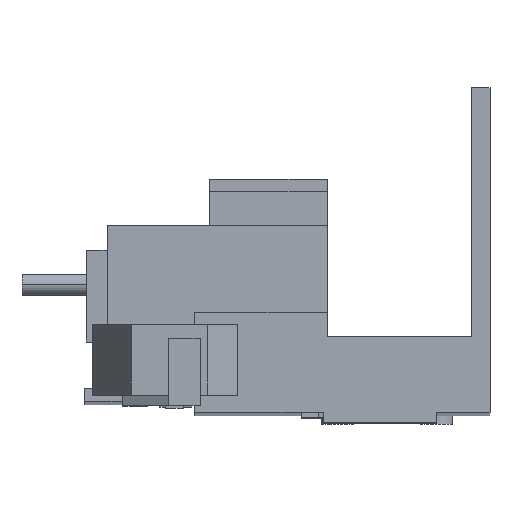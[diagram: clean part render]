
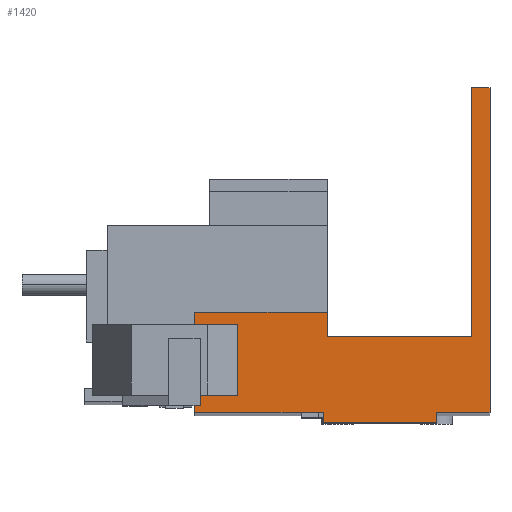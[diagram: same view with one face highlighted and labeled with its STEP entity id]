
A CAD part, front view. The second image highlights one B-rep face of the part: STEP entity #1420.
In plain terms, the highlighted planar face has unit normal (0, -1, 0.002).
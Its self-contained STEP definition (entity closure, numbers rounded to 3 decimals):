
#5 = VERTEX_POINT ( 'NONE', #3592 ) ;
#13 = VERTEX_POINT ( 'NONE', #3587 ) ;
#15 = VERTEX_POINT ( 'NONE', #3582 ) ;
#17 = VERTEX_POINT ( 'NONE', #3602 ) ;
#21 = VERTEX_POINT ( 'NONE', #3597 ) ;
#43 = VERTEX_POINT ( 'NONE', #3538 ) ;
#45 = VERTEX_POINT ( 'NONE', #3534 ) ;
#57 = VERTEX_POINT ( 'NONE', #3537 ) ;
#85 = VERTEX_POINT ( 'NONE', #3556 ) ;
#137 = AXIS2_PLACEMENT_3D ( 'NONE', #5436, #5435, #5408 ) ;
#1201 = ORIENTED_EDGE ( 'NONE', *, *, #5033, .T. ) ;
#1343 = ORIENTED_EDGE ( 'NONE', *, *, #5046, .T. ) ;
#1375 = ORIENTED_EDGE ( 'NONE', *, *, #5024, .T. ) ;
#1420 = ADVANCED_FACE ( 'NONE', ( #2350 ), #5420, .F. ) ;
#1612 = ORIENTED_EDGE ( 'NONE', *, *, #5042, .F. ) ;
#1618 = ORIENTED_EDGE ( 'NONE', *, *, #4968, .T. ) ;
#1647 = ORIENTED_EDGE ( 'NONE', *, *, #5053, .T. ) ;
#1657 = ORIENTED_EDGE ( 'NONE', *, *, #4946, .T. ) ;
#1663 = ORIENTED_EDGE ( 'NONE', *, *, #5048, .T. ) ;
#1673 = ORIENTED_EDGE ( 'NONE', *, *, #4989, .T. ) ;
#2168 = EDGE_LOOP ( 'NONE', ( #1375, #1201, #1343, #1673, #2418, #2417, #1612, #2315, #1618, #1647, #1657, #1663 ) ) ;
#2240 = VERTEX_POINT ( 'NONE', #4530 ) ;
#2315 = ORIENTED_EDGE ( 'NONE', *, *, #5061, .T. ) ;
#2350 = FACE_OUTER_BOUND ( 'NONE', #2168, .T. ) ;
#2417 = ORIENTED_EDGE ( 'NONE', *, *, #5028, .F. ) ;
#2418 = ORIENTED_EDGE ( 'NONE', *, *, #4929, .T. ) ;
#2668 = VECTOR ( 'NONE', #3074, 1000. ) ;
#2672 = LINE ( 'NONE', #3076, #2668 ) ;
#2742 = VECTOR ( 'NONE', #3119, 1000. ) ;
#2746 = LINE ( 'NONE', #3113, #2742 ) ;
#2783 = LINE ( 'NONE', #3330, #2854 ) ;
#2794 = LINE ( 'NONE', #3310, #2999 ) ;
#2795 = LINE ( 'NONE', #3165, #2845 ) ;
#2798 = VECTOR ( 'NONE', #3315, 1000. ) ;
#2830 = LINE ( 'NONE', #3377, #2926 ) ;
#2845 = VECTOR ( 'NONE', #3174, 1000. ) ;
#2854 = VECTOR ( 'NONE', #3331, 1000. ) ;
#2880 = VECTOR ( 'NONE', #3397, 1000. ) ;
#2884 = LINE ( 'NONE', #3396, #2880 ) ;
#2899 = VECTOR ( 'NONE', #3391, 1000. ) ;
#2907 = LINE ( 'NONE', #3390, #2899 ) ;
#2909 = VECTOR ( 'NONE', #3381, 1000. ) ;
#2915 = LINE ( 'NONE', #3380, #2909 ) ;
#2926 = VECTOR ( 'NONE', #3378, 1000. ) ;
#2947 = VECTOR ( 'NONE', #3424, 1000. ) ;
#2952 = LINE ( 'NONE', #3423, #2947 ) ;
#2956 = VECTOR ( 'NONE', #3220, 1000. ) ;
#2965 = LINE ( 'NONE', #3219, #2956 ) ;
#2997 = LINE ( 'NONE', #3323, #2798 ) ;
#2999 = VECTOR ( 'NONE', #3311, 1000. ) ;
#3074 = DIRECTION ( 'NONE',  ( 1., 0., 0. ) ) ;
#3076 = CARTESIAN_POINT ( 'NONE',  ( 0., -33.075, -35.931 ) ) ;
#3113 = CARTESIAN_POINT ( 'NONE',  ( -2.55, -32.98, 9.819 ) ) ;
#3119 = DIRECTION ( 'NONE',  ( -1., 0., 0. ) ) ;
#3165 = CARTESIAN_POINT ( 'NONE',  ( 0., -33.075, -35.931 ) ) ;
#3174 = DIRECTION ( 'NONE',  ( 1., 0., 0. ) ) ;
#3219 = CARTESIAN_POINT ( 'NONE',  ( -41.6, -33.075, -35.931 ) ) ;
#3220 = DIRECTION ( 'NONE',  ( 0., -0.002, -1. ) ) ;
#3310 = CARTESIAN_POINT ( 'NONE',  ( -1.75, -33.053, -25.181 ) ) ;
#3311 = DIRECTION ( 'NONE',  ( -1., 0., 0. ) ) ;
#3315 = DIRECTION ( 'NONE',  ( 0., 0.002, 1. ) ) ;
#3323 = CARTESIAN_POINT ( 'NONE',  ( -23.5, -33.078, -37.431 ) ) ;
#3330 = CARTESIAN_POINT ( 'NONE',  ( -22.92, -33.046, -21.831 ) ) ;
#3331 = DIRECTION ( 'NONE',  ( 0., 0.002, 1. ) ) ;
#3377 = CARTESIAN_POINT ( 'NONE',  ( -7.5, -33.078, -37.431 ) ) ;
#3378 = DIRECTION ( 'NONE',  ( -1., 0., 0. ) ) ;
#3380 = CARTESIAN_POINT ( 'NONE',  ( -41.6, -33.046, -21.831 ) ) ;
#3381 = DIRECTION ( 'NONE',  ( -1., 0., 0. ) ) ;
#3390 = CARTESIAN_POINT ( 'NONE',  ( -2.55, -33.072, -34.474 ) ) ;
#3391 = DIRECTION ( 'NONE',  ( 0., -0.002, -1. ) ) ;
#3396 = CARTESIAN_POINT ( 'NONE',  ( 0., -32.98, 9.819 ) ) ;
#3397 = DIRECTION ( 'NONE',  ( 0., 0.002, 1. ) ) ;
#3423 = CARTESIAN_POINT ( 'NONE',  ( -7.5, -33.078, -37.431 ) ) ;
#3424 = DIRECTION ( 'NONE',  ( 0., 0.002, 1. ) ) ;
#3534 = CARTESIAN_POINT ( 'NONE',  ( -23.5, -33.075, -35.931 ) ) ;
#3537 = CARTESIAN_POINT ( 'NONE',  ( -7.5, -33.075, -35.931 ) ) ;
#3538 = CARTESIAN_POINT ( 'NONE',  ( -41.6, -33.046, -21.831 ) ) ;
#3556 = CARTESIAN_POINT ( 'NONE',  ( 0., -32.98, 9.819 ) ) ;
#3582 = CARTESIAN_POINT ( 'NONE',  ( -22.92, -33.053, -25.181 ) ) ;
#3587 = CARTESIAN_POINT ( 'NONE',  ( -22.92, -33.046, -21.831 ) ) ;
#3592 = CARTESIAN_POINT ( 'NONE',  ( -2.55, -32.98, 9.819 ) ) ;
#3597 = CARTESIAN_POINT ( 'NONE',  ( -2.55, -33.053, -25.181 ) ) ;
#3602 = CARTESIAN_POINT ( 'NONE',  ( -7.5, -33.078, -37.431 ) ) ;
#3749 = VERTEX_POINT ( 'NONE', #4659 ) ;
#3787 = VERTEX_POINT ( 'NONE', #4697 ) ;
#4530 = CARTESIAN_POINT ( 'NONE',  ( -41.6, -33.075, -35.931 ) ) ;
#4659 = CARTESIAN_POINT ( 'NONE',  ( -23.5, -33.078, -37.431 ) ) ;
#4697 = CARTESIAN_POINT ( 'NONE',  ( 0., -33.075, -35.931 ) ) ;
#4929 = EDGE_CURVE ( 'NONE', #2240, #45, #2672, .T. ) ;
#4946 = EDGE_CURVE ( 'NONE', #85, #5, #2746, .T. ) ;
#4968 = EDGE_CURVE ( 'NONE', #57, #3787, #2795, .T. ) ;
#4989 = EDGE_CURVE ( 'NONE', #43, #2240, #2965, .T. ) ;
#5024 = EDGE_CURVE ( 'NONE', #21, #15, #2794, .T. ) ;
#5028 = EDGE_CURVE ( 'NONE', #3749, #45, #2997, .T. ) ;
#5033 = EDGE_CURVE ( 'NONE', #15, #13, #2783, .T. ) ;
#5042 = EDGE_CURVE ( 'NONE', #17, #3749, #2830, .T. ) ;
#5046 = EDGE_CURVE ( 'NONE', #13, #43, #2915, .T. ) ;
#5048 = EDGE_CURVE ( 'NONE', #5, #21, #2907, .T. ) ;
#5053 = EDGE_CURVE ( 'NONE', #3787, #85, #2884, .T. ) ;
#5061 = EDGE_CURVE ( 'NONE', #17, #57, #2952, .T. ) ;
#5408 = DIRECTION ( 'NONE',  ( -1., 0., 0. ) ) ;
#5420 = PLANE ( 'NONE',  #137 ) ;
#5435 = DIRECTION ( 'NONE',  ( 0., 1., -0.002 ) ) ;
#5436 = CARTESIAN_POINT ( 'NONE',  ( 0., -33.075, -35.931 ) ) ;
